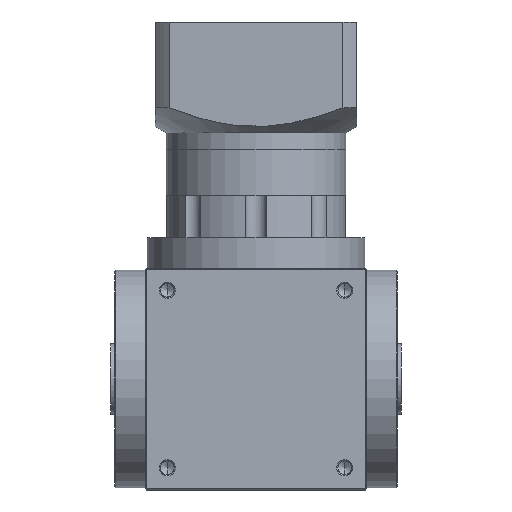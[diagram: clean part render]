
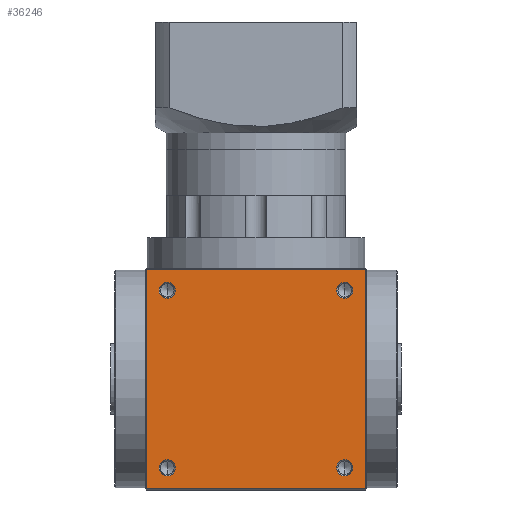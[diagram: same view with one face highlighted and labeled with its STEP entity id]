
A CAD part, front view. The second image highlights one B-rep face of the part: STEP entity #36246.
In plain terms, the highlighted planar face has unit normal (0, -1, 0).
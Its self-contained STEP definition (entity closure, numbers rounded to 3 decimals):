
#271 = EDGE_CURVE ( 'NONE', #3585, #47560, #1284, .T. ) ;
#344 = CARTESIAN_POINT ( 'NONE',  ( -54.5, -55., 110. ) ) ;
#360 = VERTEX_POINT ( 'NONE', #47756 ) ;
#1205 = DIRECTION ( 'NONE',  ( 0., -1., 0. ) ) ;
#1284 = CIRCLE ( 'NONE', #45145, 4.025 ) ;
#1449 = CARTESIAN_POINT ( 'NONE',  ( -39.975, -55., 99. ) ) ;
#1655 = ORIENTED_EDGE ( 'NONE', *, *, #33098, .F. ) ;
#1794 = CIRCLE ( 'NONE', #42932, 4.025 ) ;
#2163 = VERTEX_POINT ( 'NONE', #35153 ) ;
#3585 = VERTEX_POINT ( 'NONE', #9651 ) ;
#4103 = AXIS2_PLACEMENT_3D ( 'NONE', #28213, #1205, #32548 ) ;
#4297 = VERTEX_POINT ( 'NONE', #1449 ) ;
#4870 = VECTOR ( 'NONE', #23810, 1000. ) ;
#5151 = LINE ( 'NONE', #52683, #4870 ) ;
#5623 = EDGE_LOOP ( 'NONE', ( #21441, #1655 ) ) ;
#6028 = LINE ( 'NONE', #6209, #6487 ) ;
#6209 = CARTESIAN_POINT ( 'NONE',  ( 54.5, -55., 110. ) ) ;
#6487 = VECTOR ( 'NONE', #41250, 1000. ) ;
#6934 = EDGE_LOOP ( 'NONE', ( #51853, #44975, #39405, #54973 ) ) ;
#7723 = PLANE ( 'NONE',  #27127 ) ;
#8208 = EDGE_CURVE ( 'NONE', #12504, #13157, #46173, .T. ) ;
#8858 = EDGE_CURVE ( 'NONE', #44205, #4297, #32760, .T. ) ;
#9651 = CARTESIAN_POINT ( 'NONE',  ( 48.025, -55., 99. ) ) ;
#10104 = CARTESIAN_POINT ( 'NONE',  ( -48.025, -55., 99. ) ) ;
#11514 = DIRECTION ( 'NONE',  ( 1., 0., 0. ) ) ;
#11563 = DIRECTION ( 'NONE',  ( 0., -1., 0. ) ) ;
#11640 = CARTESIAN_POINT ( 'NONE',  ( -44., -55., 11. ) ) ;
#11842 = CARTESIAN_POINT ( 'NONE',  ( 48.025, -55., 11. ) ) ;
#12303 = DIRECTION ( 'NONE',  ( 0., 1., 0. ) ) ;
#12504 = VERTEX_POINT ( 'NONE', #53250 ) ;
#13157 = VERTEX_POINT ( 'NONE', #18072 ) ;
#17475 = CARTESIAN_POINT ( 'NONE',  ( -44., -55., 11. ) ) ;
#17740 = CARTESIAN_POINT ( 'NONE',  ( 44., -55., 11. ) ) ;
#17747 = FACE_BOUND ( 'NONE', #37467, .T. ) ;
#17804 = FACE_OUTER_BOUND ( 'NONE', #6934, .T. ) ;
#17948 = FACE_BOUND ( 'NONE', #5623, .T. ) ;
#18004 = FACE_BOUND ( 'NONE', #24243, .T. ) ;
#18072 = CARTESIAN_POINT ( 'NONE',  ( -48.025, -55., 11. ) ) ;
#18112 = FACE_BOUND ( 'NONE', #29521, .T. ) ;
#18541 = EDGE_CURVE ( 'NONE', #4297, #44205, #20963, .T. ) ;
#18598 = VERTEX_POINT ( 'NONE', #20057 ) ;
#20057 = CARTESIAN_POINT ( 'NONE',  ( 54.5, -55., 109.5 ) ) ;
#20396 = DIRECTION ( 'NONE',  ( 1., 0., 0. ) ) ;
#20406 = DIRECTION ( 'NONE',  ( 0., -1., 0. ) ) ;
#20415 = AXIS2_PLACEMENT_3D ( 'NONE', #51370, #51308, #51260 ) ;
#20455 = CARTESIAN_POINT ( 'NONE',  ( -44., -55., 99. ) ) ;
#20963 = CIRCLE ( 'NONE', #21530, 4.025 ) ;
#21441 = ORIENTED_EDGE ( 'NONE', *, *, #8208, .F. ) ;
#21530 = AXIS2_PLACEMENT_3D ( 'NONE', #20455, #20406, #20396 ) ;
#21948 = DIRECTION ( 'NONE',  ( 1., 0., 0. ) ) ;
#22021 = VECTOR ( 'NONE', #48093, 1000. ) ;
#22207 = DIRECTION ( 'NONE',  ( 1., 0., 0. ) ) ;
#23810 = DIRECTION ( 'NONE',  ( -1., 0., 0. ) ) ;
#24243 = EDGE_LOOP ( 'NONE', ( #28046, #51215 ) ) ;
#25709 = LINE ( 'NONE', #344, #27850 ) ;
#25885 = CARTESIAN_POINT ( 'NONE',  ( 44., -55., 11. ) ) ;
#26066 = VERTEX_POINT ( 'NONE', #11842 ) ;
#26392 = EDGE_CURVE ( 'NONE', #18598, #28817, #6028, .T. ) ;
#27018 = CARTESIAN_POINT ( 'NONE',  ( -55., -55., 109.5 ) ) ;
#27127 = AXIS2_PLACEMENT_3D ( 'NONE', #50419, #12303, #42606 ) ;
#27850 = VECTOR ( 'NONE', #47935, 1000. ) ;
#28046 = ORIENTED_EDGE ( 'NONE', *, *, #18541, .F. ) ;
#28213 = CARTESIAN_POINT ( 'NONE',  ( 44., -55., 99. ) ) ;
#28343 = CIRCLE ( 'NONE', #49186, 4.025 ) ;
#28599 = AXIS2_PLACEMENT_3D ( 'NONE', #11640, #11563, #11514 ) ;
#28817 = VERTEX_POINT ( 'NONE', #33127 ) ;
#29521 = EDGE_LOOP ( 'NONE', ( #39281, #32210 ) ) ;
#30282 = DIRECTION ( 'NONE',  ( 1., 0., 0. ) ) ;
#30312 = EDGE_CURVE ( 'NONE', #49081, #26066, #1794, .T. ) ;
#31196 = CARTESIAN_POINT ( 'NONE',  ( 39.975, -55., 99. ) ) ;
#32210 = ORIENTED_EDGE ( 'NONE', *, *, #30312, .F. ) ;
#32548 = DIRECTION ( 'NONE',  ( 1., 0., 0. ) ) ;
#32760 = CIRCLE ( 'NONE', #20415, 4.025 ) ;
#33098 = EDGE_CURVE ( 'NONE', #13157, #12504, #43406, .T. ) ;
#33127 = CARTESIAN_POINT ( 'NONE',  ( 54.5, -55., 0.5 ) ) ;
#34054 = ORIENTED_EDGE ( 'NONE', *, *, #38016, .F. ) ;
#35153 = CARTESIAN_POINT ( 'NONE',  ( -54.5, -55., 109.5 ) ) ;
#36246 = ADVANCED_FACE ( 'NONE', ( #18112, #17747, #18004, #17948, #17804 ), #7723, .F. ) ;
#37467 = EDGE_LOOP ( 'NONE', ( #48015, #34054 ) ) ;
#37617 = LINE ( 'NONE', #27018, #22021 ) ;
#38016 = EDGE_CURVE ( 'NONE', #47560, #3585, #39469, .T. ) ;
#39281 = ORIENTED_EDGE ( 'NONE', *, *, #45186, .F. ) ;
#39405 = ORIENTED_EDGE ( 'NONE', *, *, #42205, .F. ) ;
#39469 = CIRCLE ( 'NONE', #4103, 4.025 ) ;
#40522 = EDGE_CURVE ( 'NONE', #2163, #18598, #37617, .T. ) ;
#41250 = DIRECTION ( 'NONE',  ( 0., 0., -1. ) ) ;
#42008 = AXIS2_PLACEMENT_3D ( 'NONE', #17475, #47058, #21948 ) ;
#42205 = EDGE_CURVE ( 'NONE', #28817, #360, #5151, .T. ) ;
#42606 = DIRECTION ( 'NONE',  ( 0., 0., 1. ) ) ;
#42932 = AXIS2_PLACEMENT_3D ( 'NONE', #25885, #54480, #30282 ) ;
#43393 = CARTESIAN_POINT ( 'NONE',  ( 39.975, -55., 11. ) ) ;
#43406 = CIRCLE ( 'NONE', #42008, 4.025 ) ;
#44205 = VERTEX_POINT ( 'NONE', #10104 ) ;
#44975 = ORIENTED_EDGE ( 'NONE', *, *, #53795, .F. ) ;
#45145 = AXIS2_PLACEMENT_3D ( 'NONE', #49710, #49658, #49599 ) ;
#45186 = EDGE_CURVE ( 'NONE', #26066, #49081, #28343, .T. ) ;
#46173 = CIRCLE ( 'NONE', #28599, 4.025 ) ;
#47058 = DIRECTION ( 'NONE',  ( 0., -1., 0. ) ) ;
#47304 = DIRECTION ( 'NONE',  ( 0., -1., 0. ) ) ;
#47560 = VERTEX_POINT ( 'NONE', #31196 ) ;
#47756 = CARTESIAN_POINT ( 'NONE',  ( -54.5, -55., 0.5 ) ) ;
#47935 = DIRECTION ( 'NONE',  ( 0., 0., 1. ) ) ;
#48015 = ORIENTED_EDGE ( 'NONE', *, *, #271, .F. ) ;
#48093 = DIRECTION ( 'NONE',  ( 1., 0., 0. ) ) ;
#49081 = VERTEX_POINT ( 'NONE', #43393 ) ;
#49186 = AXIS2_PLACEMENT_3D ( 'NONE', #17740, #47304, #22207 ) ;
#49599 = DIRECTION ( 'NONE',  ( 1., 0., 0. ) ) ;
#49658 = DIRECTION ( 'NONE',  ( 0., -1., 0. ) ) ;
#49710 = CARTESIAN_POINT ( 'NONE',  ( 44., -55., 99. ) ) ;
#50419 = CARTESIAN_POINT ( 'NONE',  ( -55., -55., 110. ) ) ;
#51215 = ORIENTED_EDGE ( 'NONE', *, *, #8858, .F. ) ;
#51260 = DIRECTION ( 'NONE',  ( 1., 0., 0. ) ) ;
#51308 = DIRECTION ( 'NONE',  ( 0., -1., 0. ) ) ;
#51370 = CARTESIAN_POINT ( 'NONE',  ( -44., -55., 99. ) ) ;
#51853 = ORIENTED_EDGE ( 'NONE', *, *, #40522, .F. ) ;
#52683 = CARTESIAN_POINT ( 'NONE',  ( -55., -55., 0.5 ) ) ;
#53250 = CARTESIAN_POINT ( 'NONE',  ( -39.975, -55., 11. ) ) ;
#53795 = EDGE_CURVE ( 'NONE', #360, #2163, #25709, .T. ) ;
#54480 = DIRECTION ( 'NONE',  ( 0., -1., 0. ) ) ;
#54973 = ORIENTED_EDGE ( 'NONE', *, *, #26392, .F. ) ;
